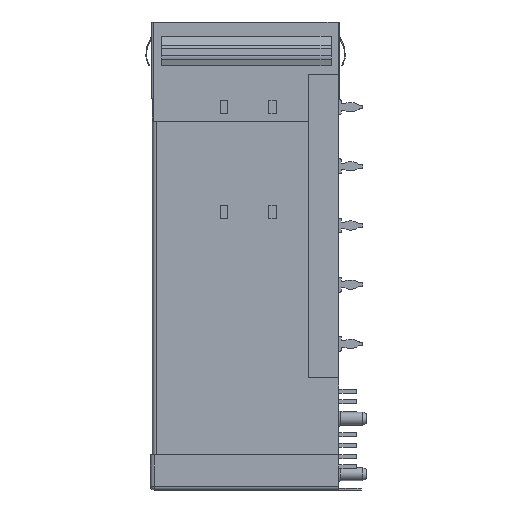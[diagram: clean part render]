
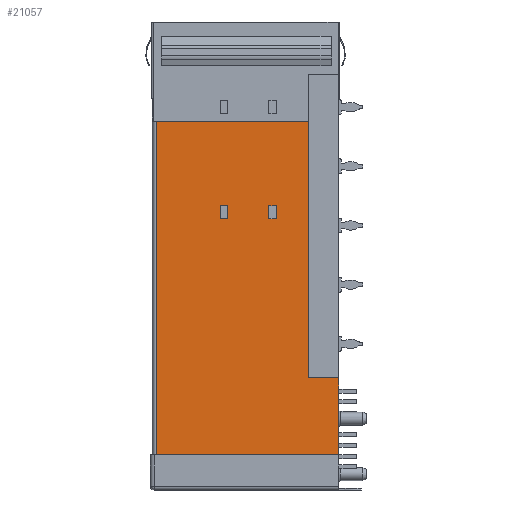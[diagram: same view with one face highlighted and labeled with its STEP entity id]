
A CAD part, left-side view. The second image highlights one B-rep face of the part: STEP entity #21057.
In plain terms, the highlighted planar face has unit normal (-1, 0, 0).
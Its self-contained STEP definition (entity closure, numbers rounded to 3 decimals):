
#134 = VERTEX_POINT ( 'NONE', #10275 ) ;
#237 = DIRECTION ( 'NONE',  ( 0., 1., 0. ) ) ;
#259 = EDGE_CURVE ( 'NONE', #16524, #19178, #5095, .T. ) ;
#302 = LINE ( 'NONE', #12723, #11319 ) ;
#304 = VERTEX_POINT ( 'NONE', #9051 ) ;
#362 = ORIENTED_EDGE ( 'NONE', *, *, #15945, .T. ) ;
#481 = VERTEX_POINT ( 'NONE', #11613 ) ;
#845 = CARTESIAN_POINT ( 'NONE',  ( -7.25, 16., -24.8 ) ) ;
#1650 = EDGE_LOOP ( 'NONE', ( #16130, #17845, #13466, #7316, #18639, #15843 ) ) ;
#1766 = VERTEX_POINT ( 'NONE', #15458 ) ;
#1826 = PLANE ( 'NONE',  #8402 ) ;
#1871 = LINE ( 'NONE', #8768, #19644 ) ;
#2169 = VERTEX_POINT ( 'NONE', #16868 ) ;
#2256 = DIRECTION ( 'NONE',  ( 0., 0., 1. ) ) ;
#2633 = EDGE_LOOP ( 'NONE', ( #362, #20905, #9476, #13080 ) ) ;
#2840 = EDGE_CURVE ( 'NONE', #6806, #304, #18966, .T. ) ;
#2851 = DIRECTION ( 'NONE',  ( 0., -1., 0. ) ) ;
#3353 = LINE ( 'NONE', #9640, #6279 ) ;
#3495 = VECTOR ( 'NONE', #9132, 1000. ) ;
#3895 = CARTESIAN_POINT ( 'NONE',  ( -7.25, 8.45, -24.8 ) ) ;
#3947 = VECTOR ( 'NONE', #14567, 1000. ) ;
#4158 = DIRECTION ( 'NONE',  ( 0., 1., 0. ) ) ;
#4495 = CARTESIAN_POINT ( 'NONE',  ( -7.25, 16., -24.8 ) ) ;
#4566 = ORIENTED_EDGE ( 'NONE', *, *, #6010, .T. ) ;
#4769 = VECTOR ( 'NONE', #2256, 1000. ) ;
#4909 = DIRECTION ( 'NONE',  ( 0., 0., -1. ) ) ;
#5095 = LINE ( 'NONE', #15979, #3495 ) ;
#5482 = CARTESIAN_POINT ( 'NONE',  ( -7.25, 9.45, -24.8 ) ) ;
#5809 = LINE ( 'NONE', #12667, #3947 ) ;
#6010 = EDGE_CURVE ( 'NONE', #8049, #6825, #9530, .T. ) ;
#6107 = LINE ( 'NONE', #16082, #4769 ) ;
#6279 = VECTOR ( 'NONE', #14720, 1000. ) ;
#6409 = CARTESIAN_POINT ( 'NONE',  ( -7.25, 8.45, -24.8 ) ) ;
#6415 = CARTESIAN_POINT ( 'NONE',  ( -7.25, 24.7, -63.25 ) ) ;
#6670 = EDGE_CURVE ( 'NONE', #304, #2169, #3353, .T. ) ;
#6806 = VERTEX_POINT ( 'NONE', #6409 ) ;
#6825 = VERTEX_POINT ( 'NONE', #15014 ) ;
#7316 = ORIENTED_EDGE ( 'NONE', *, *, #259, .T. ) ;
#7485 = LINE ( 'NONE', #6415, #20982 ) ;
#7721 = CARTESIAN_POINT ( 'NONE',  ( -7.25, 24.7, -58.5 ) ) ;
#8049 = VERTEX_POINT ( 'NONE', #12212 ) ;
#8402 = AXIS2_PLACEMENT_3D ( 'NONE', #15440, #22313, #17313 ) ;
#8447 = EDGE_CURVE ( 'NONE', #1766, #8049, #19147, .T. ) ;
#8546 = VERTEX_POINT ( 'NONE', #16458 ) ;
#8557 = EDGE_CURVE ( 'NONE', #11717, #16524, #15356, .T. ) ;
#8606 = VECTOR ( 'NONE', #9673, 1000. ) ;
#8639 = CARTESIAN_POINT ( 'NONE',  ( -7.25, 0., -48.1 ) ) ;
#8768 = CARTESIAN_POINT ( 'NONE',  ( -7.25, 16., -26.6 ) ) ;
#8859 = DIRECTION ( 'NONE',  ( 0., 0., 1. ) ) ;
#9051 = CARTESIAN_POINT ( 'NONE',  ( -7.25, 8.45, -26.6 ) ) ;
#9132 = DIRECTION ( 'NONE',  ( 0., 0., 1. ) ) ;
#9476 = ORIENTED_EDGE ( 'NONE', *, *, #6670, .T. ) ;
#9522 = DIRECTION ( 'NONE',  ( 0., 0., 1. ) ) ;
#9530 = LINE ( 'NONE', #4495, #11152 ) ;
#9640 = CARTESIAN_POINT ( 'NONE',  ( -7.25, 9.45, -26.6 ) ) ;
#9657 = EDGE_CURVE ( 'NONE', #19178, #481, #302, .T. ) ;
#9673 = DIRECTION ( 'NONE',  ( 0., -1., 0. ) ) ;
#10275 = CARTESIAN_POINT ( 'NONE',  ( -7.25, 15., -26.6 ) ) ;
#10883 = VECTOR ( 'NONE', #15829, 1000. ) ;
#10998 = ORIENTED_EDGE ( 'NONE', *, *, #21811, .T. ) ;
#11001 = FACE_OUTER_BOUND ( 'NONE', #1650, .T. ) ;
#11152 = VECTOR ( 'NONE', #2851, 1000. ) ;
#11216 = CARTESIAN_POINT ( 'NONE',  ( -7.25, 4.1, -13.4 ) ) ;
#11319 = VECTOR ( 'NONE', #4158, 1000. ) ;
#11374 = DIRECTION ( 'NONE',  ( 0., 0., -1. ) ) ;
#11613 = CARTESIAN_POINT ( 'NONE',  ( -7.25, 4.1, -48.1 ) ) ;
#11717 = VERTEX_POINT ( 'NONE', #7721 ) ;
#11759 = ORIENTED_EDGE ( 'NONE', *, *, #14287, .T. ) ;
#12212 = CARTESIAN_POINT ( 'NONE',  ( -7.25, 16., -24.8 ) ) ;
#12331 = CARTESIAN_POINT ( 'NONE',  ( -7.25, 4.1, -7.1 ) ) ;
#12667 = CARTESIAN_POINT ( 'NONE',  ( -7.25, 25.2, -13.4 ) ) ;
#12723 = CARTESIAN_POINT ( 'NONE',  ( -7.25, 0., -48.1 ) ) ;
#12891 = EDGE_CURVE ( 'NONE', #8546, #13035, #5809, .T. ) ;
#13035 = VERTEX_POINT ( 'NONE', #11216 ) ;
#13080 = ORIENTED_EDGE ( 'NONE', *, *, #17679, .T. ) ;
#13260 = ORIENTED_EDGE ( 'NONE', *, *, #8447, .T. ) ;
#13411 = DIRECTION ( 'NONE',  ( 0., -1., 0. ) ) ;
#13425 = EDGE_CURVE ( 'NONE', #481, #13035, #20342, .T. ) ;
#13466 = ORIENTED_EDGE ( 'NONE', *, *, #8557, .T. ) ;
#14287 = EDGE_CURVE ( 'NONE', #6825, #134, #20022, .T. ) ;
#14567 = DIRECTION ( 'NONE',  ( 0., -1., 0. ) ) ;
#14581 = VECTOR ( 'NONE', #9522, 1000. ) ;
#14720 = DIRECTION ( 'NONE',  ( 0., 1., 0. ) ) ;
#15014 = CARTESIAN_POINT ( 'NONE',  ( -7.25, 15., -24.8 ) ) ;
#15356 = LINE ( 'NONE', #16688, #8606 ) ;
#15440 = CARTESIAN_POINT ( 'NONE',  ( -7.25, 0., -63.25 ) ) ;
#15458 = CARTESIAN_POINT ( 'NONE',  ( -7.25, 16., -26.6 ) ) ;
#15569 = FACE_BOUND ( 'NONE', #16981, .T. ) ;
#15745 = VECTOR ( 'NONE', #8859, 1000. ) ;
#15829 = DIRECTION ( 'NONE',  ( 0., 0., -1. ) ) ;
#15843 = ORIENTED_EDGE ( 'NONE', *, *, #13425, .T. ) ;
#15945 = EDGE_CURVE ( 'NONE', #19385, #6806, #17518, .T. ) ;
#15979 = CARTESIAN_POINT ( 'NONE',  ( -7.25, 0., -63.25 ) ) ;
#16082 = CARTESIAN_POINT ( 'NONE',  ( -7.25, 9.45, -24.8 ) ) ;
#16130 = ORIENTED_EDGE ( 'NONE', *, *, #12891, .F. ) ;
#16458 = CARTESIAN_POINT ( 'NONE',  ( -7.25, 24.7, -13.4 ) ) ;
#16524 = VERTEX_POINT ( 'NONE', #22187 ) ;
#16688 = CARTESIAN_POINT ( 'NONE',  ( -7.25, 25.2, -58.5 ) ) ;
#16754 = EDGE_CURVE ( 'NONE', #8546, #11717, #7485, .T. ) ;
#16868 = CARTESIAN_POINT ( 'NONE',  ( -7.25, 9.45, -26.6 ) ) ;
#16981 = EDGE_LOOP ( 'NONE', ( #4566, #11759, #10998, #13260 ) ) ;
#17313 = DIRECTION ( 'NONE',  ( 0., 0., 1. ) ) ;
#17518 = LINE ( 'NONE', #20273, #20479 ) ;
#17679 = EDGE_CURVE ( 'NONE', #2169, #19385, #6107, .T. ) ;
#17845 = ORIENTED_EDGE ( 'NONE', *, *, #16754, .T. ) ;
#17862 = VECTOR ( 'NONE', #4909, 1000. ) ;
#18639 = ORIENTED_EDGE ( 'NONE', *, *, #9657, .T. ) ;
#18966 = LINE ( 'NONE', #3895, #10883 ) ;
#19147 = LINE ( 'NONE', #845, #14581 ) ;
#19178 = VERTEX_POINT ( 'NONE', #8639 ) ;
#19385 = VERTEX_POINT ( 'NONE', #5482 ) ;
#19644 = VECTOR ( 'NONE', #237, 1000. ) ;
#20022 = LINE ( 'NONE', #22160, #17862 ) ;
#20273 = CARTESIAN_POINT ( 'NONE',  ( -7.25, 9.45, -24.8 ) ) ;
#20342 = LINE ( 'NONE', #12331, #15745 ) ;
#20479 = VECTOR ( 'NONE', #13411, 1000. ) ;
#20905 = ORIENTED_EDGE ( 'NONE', *, *, #2840, .T. ) ;
#20982 = VECTOR ( 'NONE', #11374, 1000. ) ;
#21057 = ADVANCED_FACE ( 'NONE', ( #22062, #15569, #11001 ), #1826, .T. ) ;
#21811 = EDGE_CURVE ( 'NONE', #134, #1766, #1871, .T. ) ;
#22062 = FACE_BOUND ( 'NONE', #2633, .T. ) ;
#22160 = CARTESIAN_POINT ( 'NONE',  ( -7.25, 15., -24.8 ) ) ;
#22187 = CARTESIAN_POINT ( 'NONE',  ( -7.25, 0., -58.5 ) ) ;
#22313 = DIRECTION ( 'NONE',  ( -1., 0., 0. ) ) ;
